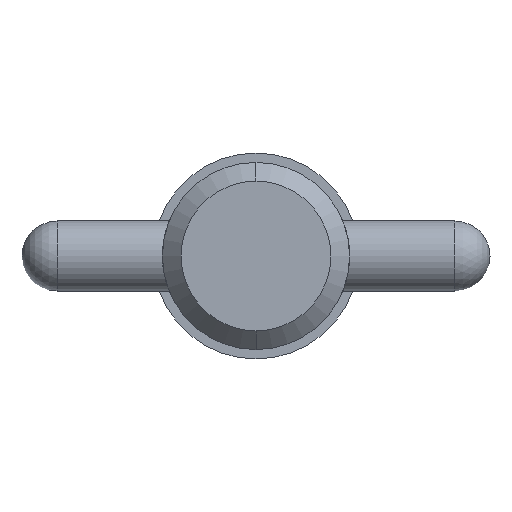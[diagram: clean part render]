
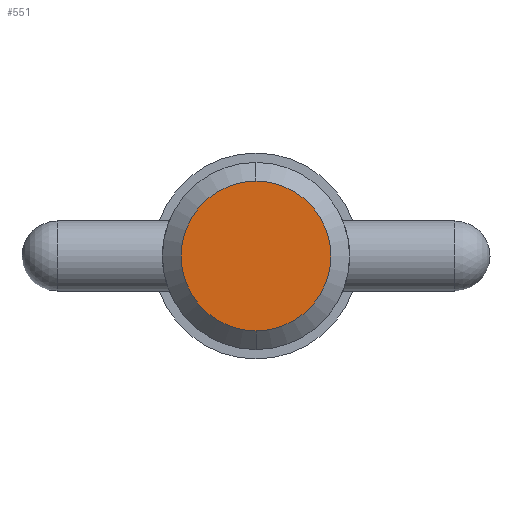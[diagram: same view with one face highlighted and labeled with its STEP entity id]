
A CAD part, left-side view. The second image highlights one B-rep face of the part: STEP entity #551.
In plain terms, the highlighted planar face has unit normal (-1, 0, 0).
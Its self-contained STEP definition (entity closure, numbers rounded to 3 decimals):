
#43 = CARTESIAN_POINT ( 'NONE',  ( 0., 0., 5.08 ) ) ;
#56 = CARTESIAN_POINT ( 'NONE',  ( 0., 0., 0. ) ) ;
#111 = EDGE_CURVE ( 'NONE', #368, #137, #971, .T. ) ;
#137 = VERTEX_POINT ( 'NONE', #462 ) ;
#141 = ORIENTED_EDGE ( 'NONE', *, *, #111, .F. ) ;
#263 = AXIS2_PLACEMENT_3D ( 'NONE', #840, #779, #1008 ) ;
#336 = FACE_OUTER_BOUND ( 'NONE', #597, .T. ) ;
#341 = DIRECTION ( 'NONE',  ( 0., 0., 1. ) ) ;
#351 = EDGE_CURVE ( 'NONE', #137, #368, #731, .T. ) ;
#362 = ORIENTED_EDGE ( 'NONE', *, *, #351, .F. ) ;
#368 = VERTEX_POINT ( 'NONE', #43 ) ;
#462 = CARTESIAN_POINT ( 'NONE',  ( 0., 0., -5.08 ) ) ;
#551 = ADVANCED_FACE ( 'NONE', ( #336 ), #882, .T. ) ;
#597 = EDGE_LOOP ( 'NONE', ( #362, #141 ) ) ;
#650 = CARTESIAN_POINT ( 'NONE',  ( 0., 0., 0. ) ) ;
#680 = DIRECTION ( 'NONE',  ( 1., 0., 0. ) ) ;
#731 = CIRCLE ( 'NONE', #263, 5.08 ) ;
#738 = DIRECTION ( 'NONE',  ( -1., 0., 0. ) ) ;
#779 = DIRECTION ( 'NONE',  ( 1., 0., 0. ) ) ;
#833 = AXIS2_PLACEMENT_3D ( 'NONE', #650, #738, #341 ) ;
#840 = CARTESIAN_POINT ( 'NONE',  ( 0., 0., 0. ) ) ;
#882 = PLANE ( 'NONE',  #833 ) ;
#899 = AXIS2_PLACEMENT_3D ( 'NONE', #56, #680, #1004 ) ;
#971 = CIRCLE ( 'NONE', #899, 5.08 ) ;
#1004 = DIRECTION ( 'NONE',  ( 0., 0., -1. ) ) ;
#1008 = DIRECTION ( 'NONE',  ( 0., 0., -1. ) ) ;
